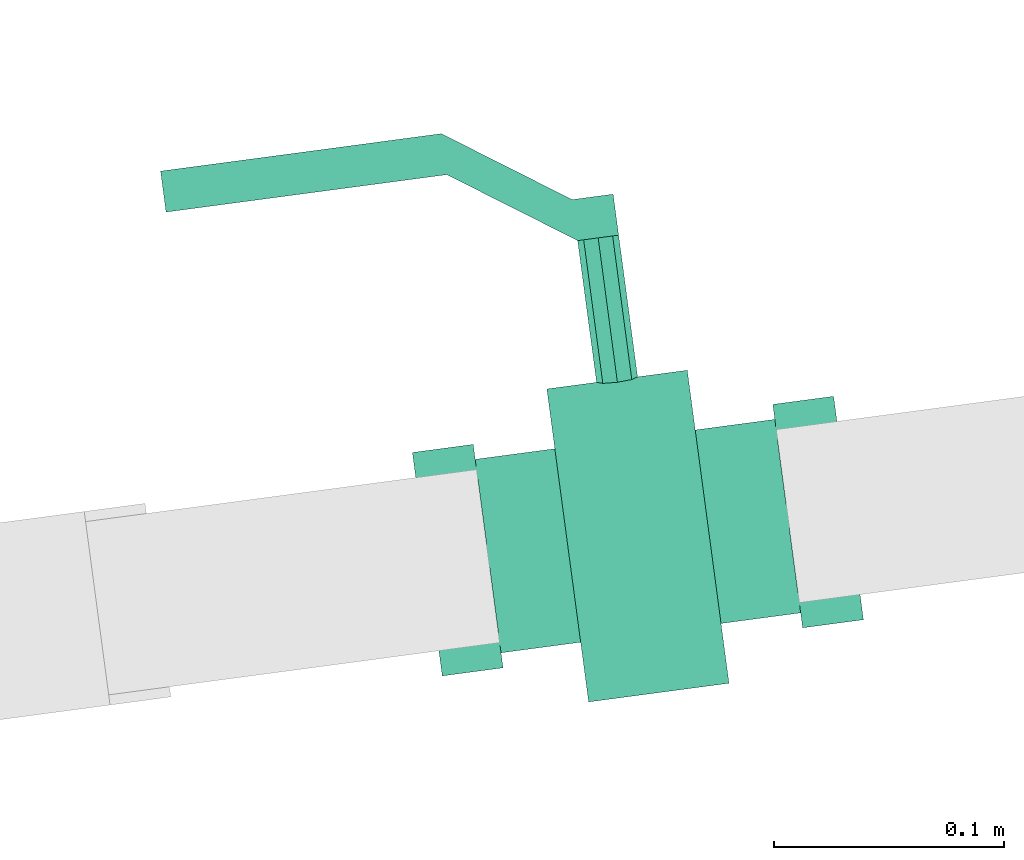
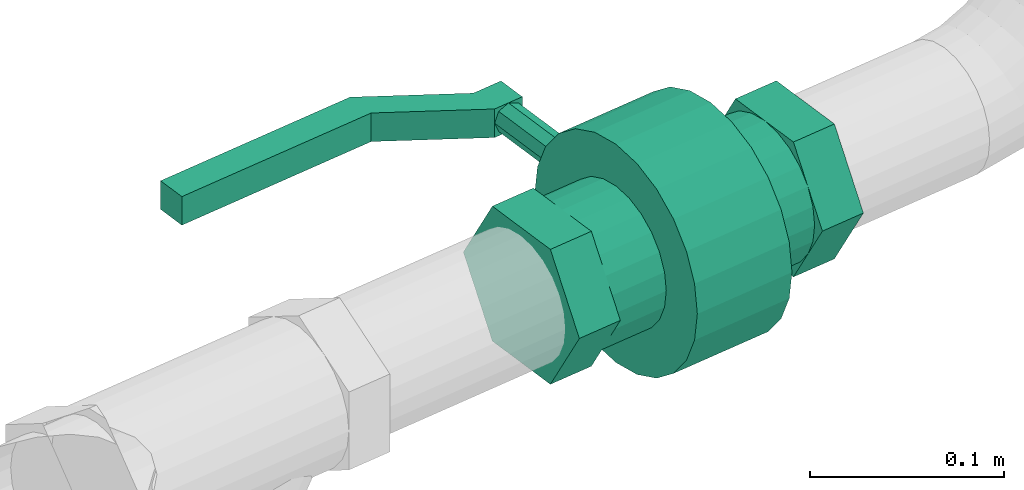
# One storey, part 331 of 374: 1 flow controller.
"""IFC2X3 building model written with IfcOpenShell, lengths in metres."""

import ifcopenshell
import ifcopenshell.guid

model = None  # the IFC model being written
_history = None  # IfcOwnerHistory: only IFC2X3 demands one
_inside = {}  # id of a spatial element -> (the spatial element, [elements in it])
_under = {}  # id of a project, library or spatial element -> (it, [spatial elements below it])
_declared = {}  # id of a project -> (the project, [libraries it declares])
_typed = {}  # id of a type object -> (the type object, [elements of that type])
_made_of = {}  # id of a material, layer set ... -> (it, [elements and type objects made of it])


def new_model(schema):
    """Start an empty IFC model of exactly this schema.

    Asked for "IFC4X3", IfcOpenShell would pick the latest addendum, in which some entities
    have other attributes; the version numbers below select the first issue.
    IFC2X3 requires an IfcOwnerHistory on every rooted entity: one is made here for all.
    """
    global model, _history
    if schema == "IFC4X3":
        model = ifcopenshell.file(schema_version=(4, 3, 0, 0))
    else:
        model = ifcopenshell.file(schema=schema)
    _inside.clear()
    _under.clear()
    _declared.clear()
    _typed.clear()
    _made_of.clear()
    _history = None
    if model.schema == "IFC2X3":
        org = make("IfcOrganization", Name="unknown")
        user = make(
            "IfcPersonAndOrganization",
            ThePerson=make("IfcPerson", FamilyName="unknown"),
            TheOrganization=org,
        )
        app = make(
            "IfcApplication",
            ApplicationDeveloper=org,
            Version="unknown",
            ApplicationFullName="unknown",
            ApplicationIdentifier="unknown",
        )
        _history = make(
            "IfcOwnerHistory",
            OwningUser=user,
            OwningApplication=app,
            ChangeAction="ADDED",
            CreationDate=0,
        )
    return model


def make(cls, **values):
    """One entity of the class cls with the attributes given. An attribute that is None is left unset."""
    return model.create_entity(
        cls, **{name: value for name, value in values.items() if value is not None}
    )


def rooted(cls, **values):
    """An entity with a GlobalId (a new one), such as an element, a storey or a relation."""
    return make(cls, GlobalId=ifcopenshell.guid.new(), OwnerHistory=_history, **values)


def si_unit(unit_type, name, prefix=None):
    """IfcSIUnit, for example si_unit("LENGTHUNIT", "METRE", prefix="MILLI")."""
    return make("IfcSIUnit", UnitType=unit_type, Prefix=prefix, Name=name)


def assignment(units):
    """IfcUnitAssignment: the units of a project."""
    return None if units is None else make("IfcUnitAssignment", Units=units)


def point(xyz):
    """IfcCartesianPoint."""
    return None if xyz is None else make("IfcCartesianPoint", Coordinates=xyz)


def direction(xyz):
    """IfcDirection."""
    return None if xyz is None else make("IfcDirection", DirectionRatios=xyz)


def frame(location, z_axis=None, x_axis=None):
    """IfcAxis2Placement3D, a coordinate frame: its origin and axes. An axis left out is left unset."""
    return make(
        "IfcAxis2Placement3D",
        Location=point(location),
        Axis=direction(z_axis),
        RefDirection=direction(x_axis),
    )


def origin():
    """The frame at (0, 0, 0) with its axes left unset."""
    return frame((0.0, 0.0, 0.0))


def place(relative_to, where):
    """IfcLocalPlacement: puts the frame where relative to a parent placement (None: the world)."""
    return make(
        "IfcLocalPlacement", PlacementRelTo=relative_to, RelativePlacement=where
    )


def context(
    kind, dimensions, precision=None, world=None, true_north=None, identifier=None
):
    """IfcGeometricRepresentationContext, for example the 3D "Model" context."""
    return make(
        "IfcGeometricRepresentationContext",
        ContextIdentifier=identifier,
        ContextType=kind,
        CoordinateSpaceDimension=dimensions,
        Precision=precision,
        WorldCoordinateSystem=world,
        TrueNorth=true_north,
    )


def subcontext(parent, identifier, kind, view, scale=None):
    """IfcGeometricRepresentationSubContext, for example "Body" below "Model"."""
    return make(
        "IfcGeometricRepresentationSubContext",
        ContextIdentifier=identifier,
        ContextType=kind,
        ParentContext=parent,
        TargetScale=scale,
        TargetView=view,
    )


def project(units=None, contexts=None):
    """IfcProject with its units and contexts."""
    return rooted(
        "IfcProject",
        Name="project",
        RepresentationContexts=contexts,
        UnitsInContext=assignment(units),
    )


def spatial(cls, under=None, at=None, **own):
    """A site, building, storey or space (cls), placed at a placement, below another one or the project."""
    s = rooted(cls, ObjectPlacement=at, **own)
    if under is not None:
        _under.setdefault(under.id(), (under, []))[1].append(s)
    return s


def faces_of(points, faces, orient=None, outer=None):
    """IfcFace entities. A face is a list of loops; a loop is a list of indices into points, from 0.

    orient and outer hold one flag for each loop. By default every Orientation is true, the
    first loop of a face is its IfcFaceOuterBound and the others are IfcFaceBound.
    """
    made = []
    for i, loops in enumerate(faces):
        bounds = []
        for j, loop in enumerate(loops):
            is_outer = j == 0 if outer is None else outer[i][j]
            bounds.append(
                make(
                    "IfcFaceOuterBound" if is_outer else "IfcFaceBound",
                    Bound=make("IfcPolyLoop", Polygon=[points[k] for k in loop]),
                    Orientation=True if orient is None else orient[i][j],
                )
            )
        made.append(make("IfcFace", Bounds=bounds))
    return made


def open_shell(faces, orient=None, outer=None):
    """The faces of one IfcOpenShell. surface_model builds it on its shared points."""
    return ("IfcOpenShell", faces, orient, outer)


def surface_model(cls, points, shells):
    """IfcFaceBasedSurfaceModel or IfcShellBasedSurfaceModel (cls): surfaces that need not close."""
    shared = [point(p) for p in points]
    made = [make(c, CfsFaces=faces_of(shared, fs, o, b)) for c, fs, o, b in shells]
    if cls == "IfcFaceBasedSurfaceModel":
        return make(cls, FbsmFaces=made)
    return make(cls, SbsmBoundary=made)


def shape(context_of_items, identifier, shape_type, items):
    """IfcShapeRepresentation: the items that make up one representation, for example the "Body"."""
    return make(
        "IfcShapeRepresentation",
        ContextOfItems=context_of_items,
        RepresentationIdentifier=identifier,
        RepresentationType=shape_type,
        Items=items,
    )


def source(mapping_origin, context_of_items, identifier, shape_type, items):
    """IfcRepresentationMap: a shape defined once, which mapped items show again and again."""
    return make(
        "IfcRepresentationMap",
        MappingOrigin=mapping_origin,
        MappedRepresentation=shape(context_of_items, identifier, shape_type, items),
    )


def transform(
    local_origin,
    x_axis=None,
    y_axis=None,
    z_axis=None,
    scale=None,
    scale2=None,
    scale3=None,
    uniform=True,
):
    """IfcCartesianTransformationOperator3D, or its non-uniform kind. x_axis, y_axis, z_axis: its Axis1, 2, 3."""
    if uniform:
        return make(
            "IfcCartesianTransformationOperator3D",
            Axis1=direction(x_axis),
            Axis2=direction(y_axis),
            LocalOrigin=point(local_origin),
            Scale=scale,
            Axis3=direction(z_axis),
        )
    return make(
        "IfcCartesianTransformationOperator3DnonUniform",
        Axis1=direction(x_axis),
        Axis2=direction(y_axis),
        LocalOrigin=point(local_origin),
        Scale=scale,
        Axis3=direction(z_axis),
        Scale2=scale2,
        Scale3=scale3,
    )


def mapped(mapping_source, mapping_target):
    """IfcMappedItem: shows the shape of a source again, moved by a transform."""
    return make(
        "IfcMappedItem", MappingSource=mapping_source, MappingTarget=mapping_target
    )


def made_of(thing, what):
    """Note that an element or type object is made of a material, layer set ...; save() writes the relation."""
    if what is not None:
        _made_of.setdefault(what.id(), (what, []))[1].append(thing)
    return thing


def element(
    cls,
    number,
    at=None,
    inside=None,
    cuts=None,
    type_object=None,
    material=None,
    context=None,
    identifier="Body",
    shape_type=None,
    held_by="IfcProductDefinitionShape",
    body=None,
    shapes=None,
    **own,
):
    """One element of the class cls, such as IfcWall. Its Tag is "e" and its number.

    at: its placement. inside: the storey or other place that contains it. cuts: it is an
    opening in that element (IfcRelVoidsElement). A single representation is given by context,
    identifier, shape_type and body (its items); several are given by shapes. held_by: the class
    of the entity that holds the representations. save() writes the other relations.
    """
    e = rooted(cls, Tag="e%d" % number, ObjectPlacement=at, **own)
    if body is not None:
        shapes = [shape(context, identifier, shape_type, body)]
    if shapes is not None:
        e.Representation = make(held_by, Representations=shapes)
    if inside is not None:
        _inside.setdefault(inside.id(), (inside, []))[1].append(e)
    if cuts is not None:
        rooted(
            "IfcRelVoidsElement", RelatingBuildingElement=cuts, RelatedOpeningElement=e
        )
    if type_object is not None:
        _typed.setdefault(type_object.id(), (type_object, []))[1].append(e)
    return made_of(e, material)


def aggregate(whole, parts):
    """IfcRelAggregates: a whole, such as a stair, and the parts it consists of."""
    return rooted("IfcRelAggregates", RelatingObject=whole, RelatedObjects=parts)


def save(model, path):
    """Write the relations noted so far, then the file.

    IfcRelAggregates (storeys below a building ...), IfcRelContainedInSpatialStructure (elements
    in a storey), IfcRelDefinesByType, IfcRelAssociatesMaterial and IfcRelDeclares: one each for
    every whole, place, type object, material and project.
    """
    for whole, parts in _under.values():
        aggregate(whole, parts)
    for where, things in _inside.values():
        rooted(
            "IfcRelContainedInSpatialStructure",
            RelatedElements=things,
            RelatingStructure=where,
        )
    for kind, things in _typed.values():
        rooted("IfcRelDefinesByType", RelatedObjects=things, RelatingType=kind)
    for what, things in _made_of.values():
        rooted("IfcRelAssociatesMaterial", RelatedObjects=things, RelatingMaterial=what)
    for by, libraries in _declared.values():
        rooted("IfcRelDeclares", RelatingContext=by, RelatedDefinitions=libraries)
    model.write(path)


model = new_model("IFC2X3")

# Units and contexts
model_context = context("Model", 3, precision=1e-05, world=origin(), true_north=direction((-0.4480736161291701, 0.8939966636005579)))
body_context = subcontext(model_context, "Body", "Model", "MODEL_VIEW")
ifc_project = project(units=[si_unit("LENGTHUNIT", "METRE"), si_unit("AREAUNIT", "SQUARE_METRE"), si_unit("VOLUMEUNIT", "CUBIC_METRE"), si_unit("PLANEANGLEUNIT", "RADIAN"), si_unit("THERMODYNAMICTEMPERATUREUNIT", "KELVIN"), si_unit("MASSUNIT", "GRAM", prefix="KILO"), si_unit("TIMEUNIT", "SECOND")], contexts=[model_context])

# Site, building, storey
site_placement = place(None, origin())
site = spatial("IfcSite", under=ifc_project, at=site_placement, Name="Site 1", CompositionType="ELEMENT")
building_placement = place(site_placement, origin())
building = spatial("IfcBuilding", under=site, at=building_placement, Name="Undefined", CompositionType="ELEMENT")
storey_placement = place(building_placement, origin())
storey = spatial("IfcBuildingStorey", under=building, at=storey_placement, Name="Rez de chauss\x8ee", CompositionType="ELEMENT", Elevation=0.0)

# Flow controller
shared_shape = source(origin(), body_context, "Body", "SurfaceModel", [
    surface_model("IfcFaceBasedSurfaceModel", [(0.0, 0.018000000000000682, -1.776356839e-15), (0.0, 0.0, 0.0), (0.018000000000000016, 0.0, 1.776356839e-15), (0.018000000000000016, 0.018000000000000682, -1.776356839e-15), (0.0, 0.0, -0.018000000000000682), (0.018000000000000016, 0.0, -0.018000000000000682), (0.0, 0.018000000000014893, -0.018000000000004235), (0.018000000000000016, 0.018000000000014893, -0.018000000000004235), (0.0, 0.07066666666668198, -0.05399999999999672), (0.018000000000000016, 0.07066666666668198, -0.05399999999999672), (0.0, 0.19400000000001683, -0.053999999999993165), (0.018000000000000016, 0.19400000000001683, -0.053999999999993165), (0.0, 0.19400000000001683, -0.035999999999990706), (0.018000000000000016, 0.19400000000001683, -0.035999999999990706), (0.0, 0.07066666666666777, -0.035999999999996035), (0.018000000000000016, 0.07066666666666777, -0.035999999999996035), (0.05149999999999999, -0.083500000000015, 0.15553738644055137), (0.05149999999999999, -0.083500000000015, 0.1064626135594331), (0.05149999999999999, -0.05680000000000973, 0.1064626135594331), (0.05149999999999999, -0.05680000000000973, 0.15553738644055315), (0.009000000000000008, -0.083500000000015, 0.18007477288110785), (0.009000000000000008, -0.05680000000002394, 0.18007477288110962), (-0.033500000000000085, -0.083500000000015, 0.15553738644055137), (-0.033500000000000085, -0.05680000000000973, 0.15553738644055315), (-0.033500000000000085, -0.083500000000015, 0.1064626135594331), (-0.033500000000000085, -0.05680000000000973, 0.1064626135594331), (0.009000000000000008, -0.0835000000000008, 0.08192522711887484), (0.009000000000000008, -0.05680000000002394, 0.08192522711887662), (-0.033500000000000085, -0.05680000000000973, 0.13099999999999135), (-0.03205184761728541, -0.05680000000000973, 0.1419998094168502), (-0.03205184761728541, -0.02183333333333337, 0.14199980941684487), (-0.033500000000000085, -0.021833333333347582, 0.1309999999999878), (-0.02780607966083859, -0.05680000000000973, 0.15224999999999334), (-0.02780607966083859, -0.02183333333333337, 0.15224999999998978), (-0.021052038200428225, -0.05680000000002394, 0.1610520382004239), (-0.021052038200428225, -0.021833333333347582, 0.1610520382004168), (-0.012249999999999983, -0.05680000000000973, 0.16780607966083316), (-0.012249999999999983, -0.02183333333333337, 0.1678060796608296), (-0.001999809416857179, -0.05680000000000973, 0.17205184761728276), (-0.001999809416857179, -0.021833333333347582, 0.17205184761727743), (0.009000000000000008, -0.05680000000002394, 0.1734999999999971), (0.009000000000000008, -0.021833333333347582, 0.17349999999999), (0.019999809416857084, -0.05680000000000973, 0.17205184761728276), (0.019999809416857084, -0.021833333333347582, 0.17205184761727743), (0.03025, -0.05680000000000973, 0.16780607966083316), (0.03025, -0.02183333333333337, 0.1678060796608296), (0.03905203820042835, -0.05680000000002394, 0.1610520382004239), (0.03905203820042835, -0.021833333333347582, 0.1610520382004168), (0.045806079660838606, -0.05680000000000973, 0.15224999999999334), (0.045806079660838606, -0.02183333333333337, 0.15224999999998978), (0.05005184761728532, -0.05680000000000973, 0.1419998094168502), (0.05005184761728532, -0.02183333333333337, 0.14199980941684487), (0.05149999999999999, -0.05680000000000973, 0.13099999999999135), (0.05149999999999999, -0.021833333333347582, 0.1309999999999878), (0.05005184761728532, -0.05680000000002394, 0.12000019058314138), (0.05005184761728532, -0.02183333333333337, 0.12000019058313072), (0.045806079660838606, -0.05680000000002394, 0.10974999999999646), (0.045806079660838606, -0.02183333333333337, 0.10974999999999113), (0.03905203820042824, -0.05680000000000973, 0.10094796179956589), (0.03905203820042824, -0.02183333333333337, 0.10094796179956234), (0.03025, -0.05680000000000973, 0.09419392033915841), (0.03025, -0.021833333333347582, 0.09419392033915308), (0.019999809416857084, -0.05680000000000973, 0.08994815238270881), (0.019999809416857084, -0.02183333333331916, 0.08994815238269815), (0.009000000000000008, -0.05679999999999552, 0.08849999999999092), (0.009000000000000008, -0.02183333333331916, 0.08849999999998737), (-0.001999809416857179, -0.05680000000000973, 0.08994815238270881), (-0.001999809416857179, -0.02183333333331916, 0.08994815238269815), (-0.012249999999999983, -0.05680000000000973, 0.09419392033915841), (-0.012249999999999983, -0.021833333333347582, 0.09419392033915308), (-0.021052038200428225, -0.05680000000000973, 0.10094796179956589), (-0.021052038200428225, -0.02183333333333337, 0.10094796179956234), (-0.0278060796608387, -0.05680000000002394, 0.10974999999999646), (-0.0278060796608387, -0.02183333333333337, 0.10974999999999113), (-0.03205184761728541, -0.05680000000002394, 0.12000019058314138), (-0.03205184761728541, -0.02183333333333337, 0.12000019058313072), (-0.05975000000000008, -0.021833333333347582, 0.1309999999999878), (-0.05740740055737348, -0.021833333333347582, 0.148793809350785), (-0.05740740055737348, 0.03983333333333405, 0.14879380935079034), (-0.05975000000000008, 0.03983333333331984, 0.13099999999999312), (-0.05053924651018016, -0.021833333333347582, 0.1653749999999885), (-0.05053924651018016, 0.03983333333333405, 0.16537499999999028), (-0.03961359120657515, -0.021833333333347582, 0.17961359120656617), (-0.03961359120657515, 0.03983333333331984, 0.17961359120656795), (-0.025375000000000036, -0.021833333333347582, 0.1905392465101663), (-0.025375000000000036, 0.03983333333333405, 0.1905392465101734), (-0.00879380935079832, -0.021833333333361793, 0.19740740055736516), (-0.00879380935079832, 0.03983333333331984, 0.19740740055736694), (0.009000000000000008, -0.021833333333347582, 0.199749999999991), (0.009000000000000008, 0.03983333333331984, 0.19974999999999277), (0.026793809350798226, -0.021833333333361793, 0.19740740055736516), (0.026793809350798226, 0.03983333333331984, 0.19740740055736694), (0.04337499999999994, -0.021833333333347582, 0.1905392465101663), (0.04337499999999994, 0.03983333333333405, 0.1905392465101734), (0.057613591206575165, -0.021833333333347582, 0.17961359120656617), (0.057613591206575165, 0.03983333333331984, 0.17961359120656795), (0.06853924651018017, -0.021833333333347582, 0.1653749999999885), (0.06853924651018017, 0.03983333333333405, 0.16537499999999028), (0.07540740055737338, -0.021833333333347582, 0.148793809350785), (0.07540740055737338, 0.03983333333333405, 0.14879380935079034), (0.07774999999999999, -0.021833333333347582, 0.1309999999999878), (0.07774999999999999, 0.03983333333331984, 0.13099999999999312), (0.07540740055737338, -0.02183333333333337, 0.11320619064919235), (0.07540740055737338, 0.03983333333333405, 0.11320619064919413), (0.06853924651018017, -0.02183333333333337, 0.09662499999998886), (0.06853924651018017, 0.03983333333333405, 0.09662499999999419), (0.057613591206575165, -0.02183333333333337, 0.08238640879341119), (0.057613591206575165, 0.03983333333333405, 0.08238640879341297), (0.04337499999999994, -0.021833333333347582, 0.07146075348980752), (0.04337499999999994, 0.03983333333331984, 0.07146075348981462), (0.026793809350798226, -0.02183333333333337, 0.06459259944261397), (0.026793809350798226, 0.03983333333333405, 0.0645925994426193), (0.009000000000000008, -0.02183333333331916, 0.062249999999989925), (0.009000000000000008, 0.03983333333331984, 0.062249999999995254), (-0.008793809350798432, -0.02183333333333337, 0.06459259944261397), (-0.008793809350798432, 0.03983333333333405, 0.0645925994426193), (-0.025375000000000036, -0.021833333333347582, 0.07146075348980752), (-0.025375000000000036, 0.03983333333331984, 0.07146075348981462), (-0.03961359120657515, -0.02183333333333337, 0.08238640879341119), (-0.03961359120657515, 0.03983333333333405, 0.08238640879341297), (-0.05053924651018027, -0.02183333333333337, 0.09662499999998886), (-0.05053924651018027, 0.03983333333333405, 0.09662499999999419), (-0.05740740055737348, -0.02183333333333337, 0.11320619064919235), (-0.05740740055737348, 0.03983333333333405, 0.11320619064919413), (0.009000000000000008, -0.021833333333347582, 0.1309999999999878), (0.009000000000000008, 0.03983333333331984, 0.13099999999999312), (-0.033500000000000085, 0.03983333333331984, 0.13099999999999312), (-0.03205184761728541, 0.03983333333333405, 0.14199980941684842), (-0.03205184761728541, 0.07479999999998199, 0.14199980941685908), (-0.033500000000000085, 0.0747999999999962, 0.13100000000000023), (-0.02780607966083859, 0.039833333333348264, 0.15224999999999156), (-0.02780607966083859, 0.07479999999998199, 0.152250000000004), (-0.021052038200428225, 0.03983333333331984, 0.16105203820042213), (-0.021052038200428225, 0.0747999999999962, 0.16105203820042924), (-0.012249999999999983, 0.03983333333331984, 0.1678060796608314), (-0.012249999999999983, 0.0747999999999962, 0.16780607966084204), (-0.001999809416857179, 0.03983333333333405, 0.17205184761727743), (-0.001999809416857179, 0.07479999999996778, 0.1720518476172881), (0.009000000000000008, 0.03983333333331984, 0.1734999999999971), (0.009000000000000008, 0.0747999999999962, 0.1735000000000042), (0.019999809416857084, 0.03983333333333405, 0.17205184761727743), (0.019999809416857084, 0.07479999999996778, 0.1720518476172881), (0.03025, 0.03983333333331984, 0.1678060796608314), (0.03025, 0.0747999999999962, 0.16780607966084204), (0.03905203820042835, 0.03983333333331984, 0.16105203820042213), (0.03905203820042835, 0.0747999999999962, 0.16105203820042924), (0.045806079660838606, 0.039833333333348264, 0.15224999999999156), (0.045806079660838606, 0.07479999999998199, 0.152250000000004), (0.05005184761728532, 0.03983333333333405, 0.14199980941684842), (0.05005184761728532, 0.07479999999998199, 0.14199980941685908), (0.05149999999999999, 0.03983333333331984, 0.13099999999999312), (0.05149999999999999, 0.0747999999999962, 0.13100000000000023), (0.05005184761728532, 0.03983333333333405, 0.12000019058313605), (0.05005184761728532, 0.07479999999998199, 0.12000019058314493), (0.045806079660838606, 0.03983333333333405, 0.10974999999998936), (0.045806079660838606, 0.07479999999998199, 0.10975000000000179), (0.03905203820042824, 0.03983333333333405, 0.10094796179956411), (0.03905203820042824, 0.07479999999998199, 0.100947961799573), (0.03025, 0.03983333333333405, 0.09419392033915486), (0.03025, 0.0747999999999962, 0.09419392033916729), (0.019999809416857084, 0.03983333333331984, 0.08994815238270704), (0.019999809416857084, 0.0747999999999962, 0.08994815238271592), (0.009000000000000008, 0.03983333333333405, 0.08849999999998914), (0.009000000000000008, 0.0747999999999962, 0.08849999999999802), (-0.001999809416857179, 0.03983333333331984, 0.08994815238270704), (-0.001999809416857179, 0.0747999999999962, 0.08994815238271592), (-0.012249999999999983, 0.03983333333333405, 0.09419392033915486), (-0.012249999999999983, 0.0747999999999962, 0.09419392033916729), (-0.021052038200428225, 0.03983333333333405, 0.10094796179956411), (-0.021052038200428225, 0.07479999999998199, 0.100947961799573), (-0.0278060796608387, 0.03983333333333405, 0.10974999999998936), (-0.0278060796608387, 0.07479999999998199, 0.10975000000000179), (-0.03205184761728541, 0.03983333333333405, 0.12000019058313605), (-0.03205184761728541, 0.07479999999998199, 0.12000019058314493), (0.05149999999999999, 0.0747999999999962, 0.15553738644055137), (0.05149999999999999, 0.0747999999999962, 0.10646261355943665), (0.05149999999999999, 0.10149999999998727, 0.10646261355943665), (0.05149999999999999, 0.10149999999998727, 0.15553738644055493), (0.009000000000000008, 0.07479999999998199, 0.18007477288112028), (0.009000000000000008, 0.10149999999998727, 0.18007477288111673), (-0.033500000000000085, 0.0747999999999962, 0.15553738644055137), (-0.033500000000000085, 0.10149999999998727, 0.15553738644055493), (-0.033500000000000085, 0.0747999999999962, 0.10646261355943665), (-0.033500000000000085, 0.10149999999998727, 0.10646261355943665), (0.009000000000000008, 0.0747999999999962, 0.08192522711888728), (0.009000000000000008, 0.10149999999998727, 0.0819252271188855), (0.009000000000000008, 0.01799999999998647, 0.1309999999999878), (0.015363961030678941, 0.015363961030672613, 0.13099999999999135), (0.015363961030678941, 0.015363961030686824, -3.552713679e-15), (0.009000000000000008, 0.018000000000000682, -1.776356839e-15), (0.018000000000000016, 0.00899999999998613, 0.13099999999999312), (0.018000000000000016, 0.009000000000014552, -1.776356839e-15), (0.015363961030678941, 0.0026360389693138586, 0.13099999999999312), (0.015363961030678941, 0.0026360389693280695, -1.776356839e-15), (0.009000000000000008, 0.0, 0.13099999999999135), (0.009000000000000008, 0.0, 1.776356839e-15), (0.002636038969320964, 0.0026360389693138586, 0.13099999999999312), (0.002636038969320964, 0.0026360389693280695, -1.776356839e-15), (0.0, 0.00899999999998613, 0.13099999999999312), (0.0, 0.009000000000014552, -1.776356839e-15), (0.002636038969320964, 0.015363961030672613, 0.13099999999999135), (0.002636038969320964, 0.015363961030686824, -3.552713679e-15)], [open_shell([[[0, 1, 2, 3]], [[1, 4, 5, 2]], [[4, 6, 7, 5]], [[6, 8, 9, 7]], [[8, 10, 11, 9]], [[10, 12, 13, 11]], [[12, 14, 15, 13]], [[14, 0, 3, 15]], [[2, 7, 3]], [[9, 3, 7]], [[3, 9, 15]], [[11, 15, 9]], [[15, 11, 13]], [[7, 2, 5]], [[0, 6, 1]], [[6, 0, 8]], [[14, 8, 0]], [[8, 14, 10]], [[12, 10, 14]], [[4, 1, 6]], [[16, 17, 18, 19]], [[20, 16, 19, 21]], [[22, 20, 21, 23]], [[24, 22, 23, 25]], [[26, 24, 25, 27]], [[17, 26, 27, 18]], [[17, 16, 20]], [[17, 20, 22]], [[17, 22, 24]], [[17, 24, 26]], [[18, 21, 19]], [[18, 23, 21]], [[18, 25, 23]], [[18, 27, 25]], [[28, 29, 30, 31]], [[29, 32, 33, 30]], [[32, 34, 35, 33]], [[34, 36, 37, 35]], [[36, 38, 39, 37]], [[38, 40, 41, 39]], [[40, 42, 43, 41]], [[42, 44, 45, 43]], [[44, 46, 47, 45]], [[46, 48, 49, 47]], [[48, 50, 51, 49]], [[50, 52, 53, 51]], [[52, 54, 55, 53]], [[54, 56, 57, 55]], [[56, 58, 59, 57]], [[58, 60, 61, 59]], [[60, 62, 63, 61]], [[62, 64, 65, 63]], [[64, 66, 67, 65]], [[66, 68, 69, 67]], [[68, 70, 71, 69]], [[70, 72, 73, 71]], [[72, 74, 75, 73]], [[74, 28, 31, 75]], [[76, 77, 78, 79]], [[77, 80, 81, 78]], [[80, 82, 83, 81]], [[82, 84, 85, 83]], [[84, 86, 87, 85]], [[86, 88, 89, 87]], [[88, 90, 91, 89]], [[90, 92, 93, 91]], [[92, 94, 95, 93]], [[94, 96, 97, 95]], [[96, 98, 99, 97]], [[98, 100, 101, 99]], [[100, 102, 103, 101]], [[102, 104, 105, 103]], [[104, 106, 107, 105]], [[106, 108, 109, 107]], [[108, 110, 111, 109]], [[110, 112, 113, 111]], [[112, 114, 115, 113]], [[114, 116, 117, 115]], [[116, 118, 119, 117]], [[118, 120, 121, 119]], [[120, 122, 123, 121]], [[122, 76, 79, 123]], [[124, 77, 76]], [[124, 80, 77]], [[124, 82, 80]], [[124, 84, 82]], [[124, 86, 84]], [[124, 88, 86]], [[124, 90, 88]], [[124, 92, 90]], [[124, 94, 92]], [[124, 96, 94]], [[124, 98, 96]], [[124, 100, 98]], [[124, 102, 100]], [[124, 104, 102]], [[124, 106, 104]], [[124, 108, 106]], [[124, 110, 108]], [[124, 112, 110]], [[124, 114, 112]], [[124, 116, 114]], [[124, 118, 116]], [[124, 120, 118]], [[124, 122, 120]], [[124, 76, 122]], [[125, 123, 79]], [[125, 121, 123]], [[125, 119, 121]], [[125, 117, 119]], [[125, 115, 117]], [[125, 113, 115]], [[125, 111, 113]], [[125, 109, 111]], [[125, 107, 109]], [[125, 105, 107]], [[125, 103, 105]], [[125, 101, 103]], [[125, 99, 101]], [[125, 97, 99]], [[125, 95, 97]], [[125, 93, 95]], [[125, 91, 93]], [[125, 89, 91]], [[125, 87, 89]], [[125, 85, 87]], [[125, 83, 85]], [[125, 81, 83]], [[125, 78, 81]], [[125, 79, 78]], [[126, 127, 128, 129]], [[127, 130, 131, 128]], [[130, 132, 133, 131]], [[132, 134, 135, 133]], [[134, 136, 137, 135]], [[136, 138, 139, 137]], [[138, 140, 141, 139]], [[140, 142, 143, 141]], [[142, 144, 145, 143]], [[144, 146, 147, 145]], [[146, 148, 149, 147]], [[148, 150, 151, 149]], [[150, 152, 153, 151]], [[152, 154, 155, 153]], [[154, 156, 157, 155]], [[156, 158, 159, 157]], [[158, 160, 161, 159]], [[160, 162, 163, 161]], [[162, 164, 165, 163]], [[164, 166, 167, 165]], [[166, 168, 169, 167]], [[168, 170, 171, 169]], [[170, 172, 173, 171]], [[172, 126, 129, 173]], [[174, 175, 176, 177]], [[178, 174, 177, 179]], [[180, 178, 179, 181]], [[182, 180, 181, 183]], [[184, 182, 183, 185]], [[175, 184, 185, 176]], [[175, 174, 178]], [[175, 178, 180]], [[175, 180, 182]], [[175, 182, 184]], [[176, 179, 177]], [[176, 181, 179]], [[176, 183, 181]], [[176, 185, 183]], [[186, 187, 188, 189]], [[187, 190, 191, 188]], [[190, 192, 193, 191]], [[192, 194, 195, 193]], [[194, 196, 197, 195]], [[196, 198, 199, 197]], [[198, 200, 201, 199]], [[200, 186, 189, 201]]])]),
])
flow_controller_placement = place(storey_placement, origin())
element("IfcFlowController", 1, at=flow_controller_placement, inside=storey, Name="Robinet à boisseau sphérique", ObjectType="Robinet à boisseau sphérique", context=body_context, shape_type="MappedRepresentation", body=[
    mapped(shared_shape, transform((67.37885304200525, 20.66192070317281, 0.6914328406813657), x_axis=(0.0, 0.0, 1.0), y_axis=(-0.9912155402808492, -0.13225639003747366, 0.0), z_axis=(0.13225639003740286, -0.9912155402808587, 0.0))),
])

save(model, "model.ifc")
